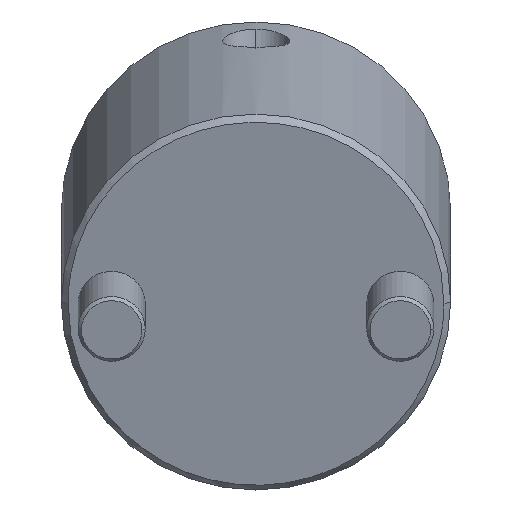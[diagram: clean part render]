
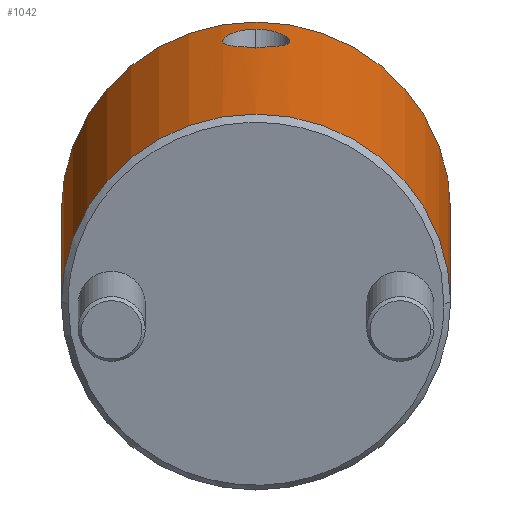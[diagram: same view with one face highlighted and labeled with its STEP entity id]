
A CAD part, front view. The second image highlights one B-rep face of the part: STEP entity #1042.
In plain terms, the highlighted cylindrical face has radius 29 mm (diameter 58 mm), a partial arc.
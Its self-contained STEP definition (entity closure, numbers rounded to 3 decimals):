
#778=CARTESIAN_POINT('Vertex',(0.,29.,1.)) ;
#781=CARTESIAN_POINT('Axis2P3D Location',(0.,0.,1.)) ;
#785=CARTESIAN_POINT('Vertex',(0.,-29.,1.)) ;
#937=CARTESIAN_POINT('Axis2P3D Location',(0.,0.,-2.75)) ;
#942=CARTESIAN_POINT('Line Origine',(0.,29.,27.5)) ;
#946=CARTESIAN_POINT('Vertex',(0.,29.,54.)) ;
#949=CARTESIAN_POINT('Axis2P3D Location',(0.,0.,54.)) ;
#953=CARTESIAN_POINT('Vertex',(0.,-29.,54.)) ;
#956=CARTESIAN_POINT('Line Origine',(0.,-29.,27.5)) ;
#968=CARTESIAN_POINT('Control Point',(29.,0.,49.884)) ;
#969=CARTESIAN_POINT('Control Point',(29.,0.418,49.884)) ;
#970=CARTESIAN_POINT('Control Point',(28.992,0.835,49.838)) ;
#971=CARTESIAN_POINT('Control Point',(28.977,1.251,49.742)) ;
#972=CARTESIAN_POINT('Control Point',(28.939,1.957,49.494)) ;
#973=CARTESIAN_POINT('Control Point',(28.884,2.612,49.109)) ;
#974=CARTESIAN_POINT('Control Point',(28.858,2.882,48.92)) ;
#975=CARTESIAN_POINT('Control Point',(28.794,3.479,48.422)) ;
#976=CARTESIAN_POINT('Control Point',(28.727,3.987,47.807)) ;
#977=CARTESIAN_POINT('Control Point',(28.69,4.238,47.427)) ;
#978=CARTESIAN_POINT('Control Point',(28.641,4.556,46.814)) ;
#979=CARTESIAN_POINT('Control Point',(28.605,4.773,46.168)) ;
#980=CARTESIAN_POINT('Control Point',(28.594,4.834,45.951)) ;
#981=CARTESIAN_POINT('Control Point',(28.573,4.958,45.399)) ;
#982=CARTESIAN_POINT('Control Point',(28.564,5.011,44.833)) ;
#983=CARTESIAN_POINT('Control Point',(28.563,5.015,44.494)) ;
#984=CARTESIAN_POINT('Control Point',(28.57,4.978,43.933)) ;
#985=CARTESIAN_POINT('Control Point',(28.588,4.869,43.389)) ;
#986=CARTESIAN_POINT('Control Point',(28.598,4.815,43.177)) ;
#987=CARTESIAN_POINT('Control Point',(28.62,4.683,42.758)) ;
#988=CARTESIAN_POINT('Control Point',(28.648,4.507,42.357)) ;
#989=CARTESIAN_POINT('Control Point',(28.663,4.409,42.161)) ;
#990=CARTESIAN_POINT('Control Point',(28.696,4.192,41.782)) ;
#991=CARTESIAN_POINT('Control Point',(28.732,3.935,41.431)) ;
#992=CARTESIAN_POINT('Control Point',(28.751,3.797,41.262)) ;
#993=CARTESIAN_POINT('Control Point',(28.808,3.356,40.78)) ;
#994=CARTESIAN_POINT('Control Point',(28.864,2.84,40.375)) ;
#995=CARTESIAN_POINT('Control Point',(28.899,2.466,40.144)) ;
#996=CARTESIAN_POINT('Control Point',(28.952,1.765,39.81)) ;
#997=CARTESIAN_POINT('Control Point',(28.985,1.013,39.617)) ;
#998=CARTESIAN_POINT('Control Point',(28.995,0.677,39.56)) ;
#999=CARTESIAN_POINT('Control Point',(29.,0.34,39.532)) ;
#1000=CARTESIAN_POINT('Control Point',(29.,0.,39.532)) ;
#1001=CARTESIAN_POINT('Vertex',(29.,0.,49.884)) ;
#1003=CARTESIAN_POINT('Vertex',(29.,0.,39.532)) ;
#1007=CARTESIAN_POINT('Control Point',(29.,0.,39.532)) ;
#1008=CARTESIAN_POINT('Control Point',(29.,-0.438,39.532)) ;
#1009=CARTESIAN_POINT('Control Point',(28.992,-0.872,39.578)) ;
#1010=CARTESIAN_POINT('Control Point',(28.975,-1.303,39.673)) ;
#1011=CARTESIAN_POINT('Control Point',(28.94,-1.925,39.882)) ;
#1012=CARTESIAN_POINT('Control Point',(28.893,-2.503,40.19)) ;
#1013=CARTESIAN_POINT('Control Point',(28.876,-2.69,40.303)) ;
#1014=CARTESIAN_POINT('Control Point',(28.84,-3.05,40.548)) ;
#1015=CARTESIAN_POINT('Control Point',(28.803,-3.38,40.831)) ;
#1016=CARTESIAN_POINT('Control Point',(28.784,-3.537,40.981)) ;
#1017=CARTESIAN_POINT('Control Point',(28.737,-3.91,41.38)) ;
#1018=CARTESIAN_POINT('Control Point',(28.692,-4.224,41.825)) ;
#1019=CARTESIAN_POINT('Control Point',(28.666,-4.39,42.108)) ;
#1020=CARTESIAN_POINT('Control Point',(28.606,-4.772,42.897)) ;
#1021=CARTESIAN_POINT('Control Point',(28.57,-4.979,43.757)) ;
#1022=CARTESIAN_POINT('Control Point',(28.559,-5.039,44.323)) ;
#1023=CARTESIAN_POINT('Control Point',(28.564,-5.013,45.122)) ;
#1024=CARTESIAN_POINT('Control Point',(28.592,-4.848,45.895)) ;
#1025=CARTESIAN_POINT('Control Point',(28.602,-4.79,46.114)) ;
#1026=CARTESIAN_POINT('Control Point',(28.637,-4.579,46.76)) ;
#1027=CARTESIAN_POINT('Control Point',(28.685,-4.268,47.377)) ;
#1028=CARTESIAN_POINT('Control Point',(28.722,-4.02,47.761)) ;
#1029=CARTESIAN_POINT('Control Point',(28.799,-3.448,48.469)) ;
#1030=CARTESIAN_POINT('Control Point',(28.872,-2.757,49.027)) ;
#1031=CARTESIAN_POINT('Control Point',(28.905,-2.387,49.263)) ;
#1032=CARTESIAN_POINT('Control Point',(28.956,-1.701,49.603)) ;
#1033=CARTESIAN_POINT('Control Point',(28.986,-0.97,49.799)) ;
#1034=CARTESIAN_POINT('Control Point',(28.995,-0.646,49.856)) ;
#1035=CARTESIAN_POINT('Control Point',(29.,-0.324,49.884)) ;
#1036=CARTESIAN_POINT('Control Point',(29.,0.,49.884)) ;
#782=DIRECTION('Axis2P3D Direction',(0.,0.,1.)) ;
#938=DIRECTION('Axis2P3D Direction',(0.,-0.,1.)) ;
#939=DIRECTION('Axis2P3D XDirection',(0.,-1.,0.)) ;
#943=DIRECTION('Vector Direction',(0.,0.,1.)) ;
#950=DIRECTION('Axis2P3D Direction',(0.,-0.,1.)) ;
#957=DIRECTION('Vector Direction',(0.,0.,1.)) ;
#783=AXIS2_PLACEMENT_3D('Circle Axis2P3D',#781,#782,$) ;
#940=AXIS2_PLACEMENT_3D('Cylinder Axis2P3D',#937,#938,#939) ;
#951=AXIS2_PLACEMENT_3D('Circle Axis2P3D',#949,#950,$) ;
#962=ORIENTED_EDGE('',*,*,#948,.F.) ;
#963=ORIENTED_EDGE('',*,*,#955,.T.) ;
#964=ORIENTED_EDGE('',*,*,#960,.T.) ;
#965=ORIENTED_EDGE('',*,*,#787,.F.) ;
#1039=ORIENTED_EDGE('',*,*,#1005,.T.) ;
#1040=ORIENTED_EDGE('',*,*,#1037,.T.) ;
#1041=FACE_BOUND('',#1038,.T.) ;
#944=VECTOR('Line Direction',#943,1.) ;
#958=VECTOR('Line Direction',#957,1.) ;
#1042=ADVANCED_FACE('MANIFOLD_SOLID_BREP #1144',(#966,#1041),#941,.T.) ;
#967=B_SPLINE_CURVE_WITH_KNOTS('',5,(#968,#969,#970,#971,#972,#973,#974,#975,#976,#977,#978,#979,#980,#981,#982,#983,#984,#985,#986,#987,#988,#989,#990,#991,#992,#993,#994,#995,#996,#997,#998,#999,#1000),.UNSPECIFIED.,.F.,.U.,(6,3,3,3,3,3,3,3,3,3,6),(0.,3.077,5.41,8.557,10.138,12.469,14.024,15.585,17.144,20.255,22.672),.UNSPECIFIED.) ;
#1006=B_SPLINE_CURVE_WITH_KNOTS('',5,(#1007,#1008,#1009,#1010,#1011,#1012,#1013,#1014,#1015,#1016,#1017,#1018,#1019,#1020,#1021,#1022,#1023,#1024,#1025,#1026,#1027,#1028,#1029,#1030,#1031,#1032,#1033,#1034,#1035,#1036),.UNSPECIFIED.,.F.,.U.,(6,3,3,3,3,3,3,3,3,6),(0.,3.118,4.673,6.231,8.57,12.455,14.035,17.179,20.289,22.669),.UNSPECIFIED.) ;
#784=CIRCLE('generated circle',#783,29.) ;
#952=CIRCLE('generated circle',#951,29.) ;
#941=CYLINDRICAL_SURFACE('generated cylinder',#940,29.) ;
#787=EDGE_CURVE('',#779,#786,#784,.F.) ;
#948=EDGE_CURVE('',#947,#779,#945,.F.) ;
#955=EDGE_CURVE('',#947,#954,#952,.F.) ;
#960=EDGE_CURVE('',#954,#786,#959,.F.) ;
#1005=EDGE_CURVE('',#1002,#1004,#967,.T.) ;
#1037=EDGE_CURVE('',#1004,#1002,#1006,.T.) ;
#961=EDGE_LOOP('',(#962,#963,#964,#965)) ;
#1038=EDGE_LOOP('',(#1039,#1040)) ;
#966=FACE_OUTER_BOUND('',#961,.T.) ;
#945=LINE('Line',#942,#944) ;
#959=LINE('Line',#956,#958) ;
#779=VERTEX_POINT('',#778) ;
#786=VERTEX_POINT('',#785) ;
#947=VERTEX_POINT('',#946) ;
#954=VERTEX_POINT('',#953) ;
#1002=VERTEX_POINT('',#1001) ;
#1004=VERTEX_POINT('',#1003) ;
